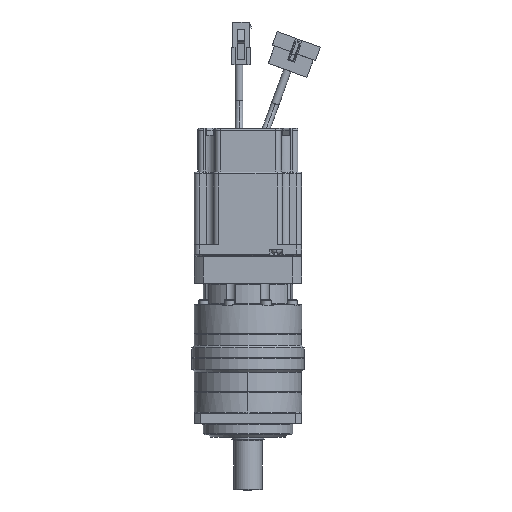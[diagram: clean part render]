
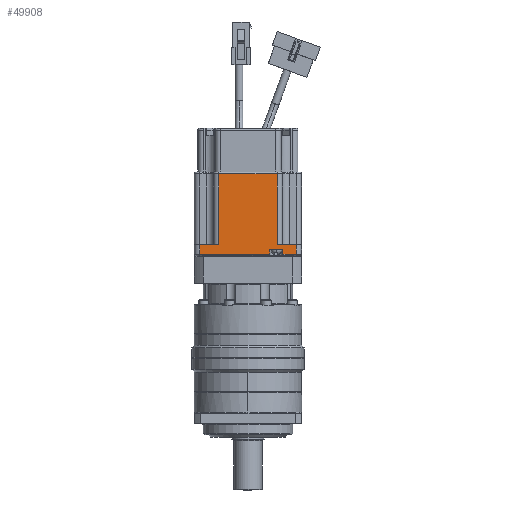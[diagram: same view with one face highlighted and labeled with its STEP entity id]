
A CAD part, front view. The second image highlights one B-rep face of the part: STEP entity #49908.
In plain terms, the highlighted planar face has unit normal (0, -1, 0) as drawn and (0, 1, 0) by its records, which use the part's own axes.
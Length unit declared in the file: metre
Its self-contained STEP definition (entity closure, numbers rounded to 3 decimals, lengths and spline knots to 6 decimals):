
#114 = EDGE_CURVE ( 'NONE', #41754, #41746, #36131, .T. ) ;
#115 = EDGE_CURVE ( 'NONE', #41746, #41748, #36141, .T. ) ;
#116 = EDGE_CURVE ( 'NONE', #41748, #45079, #36137, .T. ) ;
#123 = EDGE_CURVE ( 'NONE', #41754, #41762, #36169, .T. ) ;
#124 = EDGE_CURVE ( 'NONE', #41762, #44974, #36149, .T. ) ;
#183 = EDGE_CURVE ( 'NONE', #45140, #44928, #36377, .T. ) ;
#189 = EDGE_CURVE ( 'NONE', #44928, #45079, #36375, .T. ) ;
#192 = EDGE_CURVE ( 'NONE', #44948, #45140, #36405, .T. ) ;
#193 = EDGE_CURVE ( 'NONE', #44950, #44948, #36409, .T. ) ;
#195 = EDGE_CURVE ( 'NONE', #44958, #44950, #36397, .T. ) ;
#198 = EDGE_CURVE ( 'NONE', #44969, #44958, #36423, .T. ) ;
#199 = EDGE_CURVE ( 'NONE', #44974, #44969, #36431, .T. ) ;
#3400 = ORIENTED_EDGE ( 'NONE', *, *, #189, .T. ) ;
#3401 = ORIENTED_EDGE ( 'NONE', *, *, #116, .F. ) ;
#3402 = ORIENTED_EDGE ( 'NONE', *, *, #115, .F. ) ;
#3403 = ORIENTED_EDGE ( 'NONE', *, *, #114, .F. ) ;
#3404 = ORIENTED_EDGE ( 'NONE', *, *, #123, .T. ) ;
#3405 = ORIENTED_EDGE ( 'NONE', *, *, #124, .T. ) ;
#3406 = ORIENTED_EDGE ( 'NONE', *, *, #199, .T. ) ;
#3407 = ORIENTED_EDGE ( 'NONE', *, *, #198, .T. ) ;
#3408 = ORIENTED_EDGE ( 'NONE', *, *, #195, .T. ) ;
#3409 = ORIENTED_EDGE ( 'NONE', *, *, #193, .T. ) ;
#3410 = ORIENTED_EDGE ( 'NONE', *, *, #192, .T. ) ;
#3411 = ORIENTED_EDGE ( 'NONE', *, *, #183, .T. ) ;
#9645 = CARTESIAN_POINT ( 'NONE',  ( 0.078476, 0.015692, -0.166 ) ) ;
#9650 = CARTESIAN_POINT ( 'NONE',  ( 0.045876, 0.015692, -0.166 ) ) ;
#9652 = CARTESIAN_POINT ( 'NONE',  ( 0.078476, 0.015692, -0.2057 ) ) ;
#9656 = CARTESIAN_POINT ( 'NONE',  ( 0.089176, 0.015692, -0.2057 ) ) ;
#10186 = CARTESIAN_POINT ( 'NONE',  ( 0.035176, 0.015692, -0.2057 ) ) ;
#10197 = CARTESIAN_POINT ( 'NONE',  ( 0.042576, 0.015692, -0.211 ) ) ;
#10198 = CARTESIAN_POINT ( 'NONE',  ( 0.042576, 0.015692, -0.2085 ) ) ;
#10202 = CARTESIAN_POINT ( 'NONE',  ( 0.049976, 0.015692, -0.2085 ) ) ;
#10208 = CARTESIAN_POINT ( 'NONE',  ( 0.049976, 0.015692, -0.211 ) ) ;
#10211 = CARTESIAN_POINT ( 'NONE',  ( 0.089176, 0.015692, -0.211 ) ) ;
#10267 = CARTESIAN_POINT ( 'NONE',  ( 0.045876, 0.015692, -0.2057 ) ) ;
#10299 = CARTESIAN_POINT ( 'NONE',  ( 0.035176, 0.015692, -0.211 ) ) ;
#18764 = CARTESIAN_POINT ( 'NONE',  ( 0.092176, 0.015692, -0.212 ) ) ;
#18767 = PLANE ( 'NONE',  #25024 ) ;
#18769 = DIRECTION ( 'NONE',  ( 0., 1., 0. ) ) ;
#18770 = DIRECTION ( 'NONE',  ( -1., 0., 0. ) ) ;
#19995 = FACE_OUTER_BOUND ( 'NONE', #36955, .T. ) ;
#24018 = CARTESIAN_POINT ( 'NONE',  ( 0.045876, 0.015692, -0.18535 ) ) ;
#24019 = CARTESIAN_POINT ( 'NONE',  ( 0.078476, 0.015692, -0.18535 ) ) ;
#24024 = DIRECTION ( 'NONE',  ( 0., 0., 1. ) ) ;
#24025 = CARTESIAN_POINT ( 'NONE',  ( 0.062176, 0.015692, -0.166 ) ) ;
#24027 = DIRECTION ( 'NONE',  ( -1., 0., 0. ) ) ;
#24028 = DIRECTION ( 'NONE',  ( 0., 0., -1. ) ) ;
#24036 = CARTESIAN_POINT ( 'NONE',  ( 0.062176, 0.015692, -0.2057 ) ) ;
#24037 = DIRECTION ( 'NONE',  ( 1., 0., 0. ) ) ;
#24041 = CARTESIAN_POINT ( 'NONE',  ( 0.089176, 0.015692, -0.1885 ) ) ;
#24046 = DIRECTION ( 'NONE',  ( 0., 0., -1. ) ) ;
#24179 = CARTESIAN_POINT ( 'NONE',  ( 0.035176, 0.015692, -0.1885 ) ) ;
#24180 = DIRECTION ( 'NONE',  ( 0., 0., 1. ) ) ;
#24186 = DIRECTION ( 'NONE',  ( 1., 0., 0. ) ) ;
#24192 = CARTESIAN_POINT ( 'NONE',  ( 0.062176, 0.015692, -0.2057 ) ) ;
#24196 = DIRECTION ( 'NONE',  ( -1., 0., 0. ) ) ;
#24200 = CARTESIAN_POINT ( 'NONE',  ( 0.062176, 0.015692, -0.211 ) ) ;
#24201 = DIRECTION ( 'NONE',  ( -1., 0., 0. ) ) ;
#24202 = CARTESIAN_POINT ( 'NONE',  ( 0.042576, 0.015692, -0.1885 ) ) ;
#24203 = DIRECTION ( 'NONE',  ( 0., 0., -1. ) ) ;
#24205 = CARTESIAN_POINT ( 'NONE',  ( 0.049976, 0.015692, -0.1885 ) ) ;
#24206 = CARTESIAN_POINT ( 'NONE',  ( 0.062176, 0.015692, -0.2085 ) ) ;
#24213 = DIRECTION ( 'NONE',  ( 0., 0., 1. ) ) ;
#24214 = CARTESIAN_POINT ( 'NONE',  ( 0.062176, 0.015692, -0.211 ) ) ;
#24215 = DIRECTION ( 'NONE',  ( -1., 0., 0. ) ) ;
#25024 = AXIS2_PLACEMENT_3D ( 'NONE', #18764, #18769, #18770 ) ;
#36131 = LINE ( 'NONE', #24019, #36143 ) ;
#36137 = LINE ( 'NONE', #24018, #36151 ) ;
#36141 = LINE ( 'NONE', #24025, #36147 ) ;
#36143 = VECTOR ( 'NONE', #24024, 1. ) ;
#36147 = VECTOR ( 'NONE', #24027, 1. ) ;
#36149 = LINE ( 'NONE', #24041, #36177 ) ;
#36151 = VECTOR ( 'NONE', #24028, 1. ) ;
#36169 = LINE ( 'NONE', #24036, #36173 ) ;
#36173 = VECTOR ( 'NONE', #24037, 1. ) ;
#36177 = VECTOR ( 'NONE', #24046, 1. ) ;
#36375 = LINE ( 'NONE', #24192, #36401 ) ;
#36377 = LINE ( 'NONE', #24179, #36383 ) ;
#36383 = VECTOR ( 'NONE', #24180, 1. ) ;
#36397 = LINE ( 'NONE', #24206, #36421 ) ;
#36401 = VECTOR ( 'NONE', #24186, 1. ) ;
#36405 = LINE ( 'NONE', #24200, #36411 ) ;
#36409 = LINE ( 'NONE', #24202, #36415 ) ;
#36411 = VECTOR ( 'NONE', #24201, 1. ) ;
#36415 = VECTOR ( 'NONE', #24203, 1. ) ;
#36421 = VECTOR ( 'NONE', #24196, 1. ) ;
#36423 = LINE ( 'NONE', #24205, #36433 ) ;
#36431 = LINE ( 'NONE', #24214, #36437 ) ;
#36433 = VECTOR ( 'NONE', #24213, 1. ) ;
#36437 = VECTOR ( 'NONE', #24215, 1. ) ;
#36955 = EDGE_LOOP ( 'NONE', ( #3400, #3401, #3402, #3403, #3404, #3405, #3406, #3407, #3408, #3409, #3410, #3411 ) ) ;
#41746 = VERTEX_POINT ( 'NONE', #9645 ) ;
#41748 = VERTEX_POINT ( 'NONE', #9650 ) ;
#41754 = VERTEX_POINT ( 'NONE', #9652 ) ;
#41762 = VERTEX_POINT ( 'NONE', #9656 ) ;
#44928 = VERTEX_POINT ( 'NONE', #10186 ) ;
#44948 = VERTEX_POINT ( 'NONE', #10197 ) ;
#44950 = VERTEX_POINT ( 'NONE', #10198 ) ;
#44958 = VERTEX_POINT ( 'NONE', #10202 ) ;
#44969 = VERTEX_POINT ( 'NONE', #10208 ) ;
#44974 = VERTEX_POINT ( 'NONE', #10211 ) ;
#45079 = VERTEX_POINT ( 'NONE', #10267 ) ;
#45140 = VERTEX_POINT ( 'NONE', #10299 ) ;
#49908 = ADVANCED_FACE ( 'NONE', ( #19995 ), #18767, .T. ) ;
